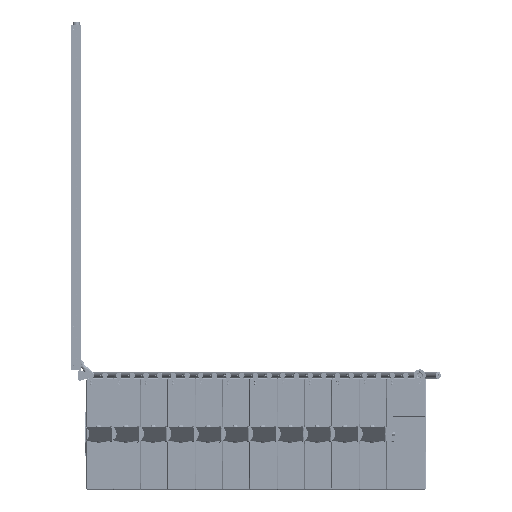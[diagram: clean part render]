
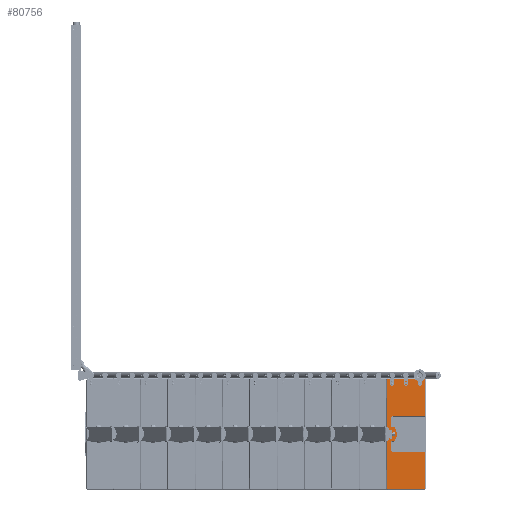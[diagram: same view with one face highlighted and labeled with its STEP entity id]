
A CAD part, front view. The second image highlights one B-rep face of the part: STEP entity #80756.
In plain terms, the highlighted planar face has unit normal (0, -1, 0).
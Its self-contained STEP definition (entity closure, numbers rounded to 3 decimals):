
#2755 = DIRECTION ( 'NONE',  ( 0., 0., 1. ) ) ;
#3198 = VERTEX_POINT ( 'NONE', #14355 ) ;
#4065 = DIRECTION ( 'NONE',  ( 0., 0., 1. ) ) ;
#7040 = EDGE_CURVE ( 'NONE', #31599, #58620, #12797, .T. ) ;
#7775 = ORIENTED_EDGE ( 'NONE', *, *, #19930, .T. ) ;
#8309 = DIRECTION ( 'NONE',  ( 0., 0., 1. ) ) ;
#8424 = VERTEX_POINT ( 'NONE', #12898 ) ;
#9810 = EDGE_CURVE ( 'NONE', #15998, #81479, #42740, .T. ) ;
#10199 = LINE ( 'NONE', #54179, #64265 ) ;
#10281 = CARTESIAN_POINT ( 'NONE',  ( 142.3, -19., 0. ) ) ;
#11124 = DIRECTION ( 'NONE',  ( 0., 0., 1. ) ) ;
#11174 = ORIENTED_EDGE ( 'NONE', *, *, #7040, .T. ) ;
#11290 = EDGE_CURVE ( 'NONE', #44735, #29235, #10199, .T. ) ;
#12797 = CIRCLE ( 'NONE', #35372, 5. ) ;
#12898 = CARTESIAN_POINT ( 'NONE',  ( -105.5, -19., 320. ) ) ;
#13167 = LINE ( 'NONE', #29535, #54185 ) ;
#13188 = DIRECTION ( 'NONE',  ( 0., 1., 0. ) ) ;
#13706 = CARTESIAN_POINT ( 'NONE',  ( -105.5, -19., 320. ) ) ;
#14355 = CARTESIAN_POINT ( 'NONE',  ( 105.5, -19., 320. ) ) ;
#15724 = DIRECTION ( 'NONE',  ( 0., 1., 0. ) ) ;
#15998 = VERTEX_POINT ( 'NONE', #21628 ) ;
#17138 = CARTESIAN_POINT ( 'NONE',  ( 110.5, -19., 38.584 ) ) ;
#19425 = PLANE ( 'NONE',  #52622 ) ;
#19930 = EDGE_CURVE ( 'NONE', #29235, #28941, #30913, .T. ) ;
#20183 = VECTOR ( 'NONE', #35052, 1000. ) ;
#21595 = DIRECTION ( 'NONE',  ( 0., -1., 0. ) ) ;
#21628 = CARTESIAN_POINT ( 'NONE',  ( 110.5, -19., -38.584 ) ) ;
#22264 = DIRECTION ( 'NONE',  ( 0., -1., 0. ) ) ;
#22666 = CARTESIAN_POINT ( 'NONE',  ( 110.5, -19., 315. ) ) ;
#23295 = DIRECTION ( 'NONE',  ( 1., 0., 0. ) ) ;
#23413 = AXIS2_PLACEMENT_3D ( 'NONE', #59608, #47579, #2755 ) ;
#23727 = ORIENTED_EDGE ( 'NONE', *, *, #31361, .T. ) ;
#24134 = EDGE_CURVE ( 'NONE', #58620, #15998, #79163, .T. ) ;
#24795 = CIRCLE ( 'NONE', #79071, 5. ) ;
#24937 = LINE ( 'NONE', #13706, #67066 ) ;
#25542 = EDGE_CURVE ( 'NONE', #28941, #31599, #13167, .T. ) ;
#27312 = VERTEX_POINT ( 'NONE', #22666 ) ;
#28941 = VERTEX_POINT ( 'NONE', #43488 ) ;
#29235 = VERTEX_POINT ( 'NONE', #66136 ) ;
#29535 = CARTESIAN_POINT ( 'NONE',  ( -105.5, -19., -320. ) ) ;
#30913 = CIRCLE ( 'NONE', #41493, 5. ) ;
#31361 = EDGE_CURVE ( 'NONE', #27312, #3198, #77668, .T. ) ;
#31599 = VERTEX_POINT ( 'NONE', #61254 ) ;
#32323 = FACE_OUTER_BOUND ( 'NONE', #47441, .T. ) ;
#35052 = DIRECTION ( 'NONE',  ( 0., 0., 1. ) ) ;
#35372 = AXIS2_PLACEMENT_3D ( 'NONE', #41740, #22264, #54170 ) ;
#35558 = DIRECTION ( 'NONE',  ( 0., 0., -1. ) ) ;
#41493 = AXIS2_PLACEMENT_3D ( 'NONE', #41613, #67286, #48236 ) ;
#41613 = CARTESIAN_POINT ( 'NONE',  ( -105.5, -19., -315. ) ) ;
#41740 = CARTESIAN_POINT ( 'NONE',  ( 105.5, -19., -315. ) ) ;
#42740 = CIRCLE ( 'NONE', #63952, 50. ) ;
#43488 = CARTESIAN_POINT ( 'NONE',  ( -105.5, -19., -320. ) ) ;
#44735 = VERTEX_POINT ( 'NONE', #81453 ) ;
#44745 = CARTESIAN_POINT ( 'NONE',  ( -105.5, -19., 315. ) ) ;
#45259 = DIRECTION ( 'NONE',  ( -1., 0., 0. ) ) ;
#47441 = EDGE_LOOP ( 'NONE', ( #67295, #75224, #58844, #23727, #58735, #73812, #50669, #7775, #68090, #11174 ) ) ;
#47579 = DIRECTION ( 'NONE',  ( 0., -1., 0. ) ) ;
#48236 = DIRECTION ( 'NONE',  ( 0., 0., 1. ) ) ;
#50669 = ORIENTED_EDGE ( 'NONE', *, *, #11290, .T. ) ;
#51485 = EDGE_CURVE ( 'NONE', #3198, #8424, #24937, .T. ) ;
#52622 = AXIS2_PLACEMENT_3D ( 'NONE', #44745, #13188, #63833 ) ;
#54170 = DIRECTION ( 'NONE',  ( 0., 0., 1. ) ) ;
#54179 = CARTESIAN_POINT ( 'NONE',  ( -110.5, -19., 315. ) ) ;
#54185 = VECTOR ( 'NONE', #23295, 1000. ) ;
#55684 = EDGE_CURVE ( 'NONE', #81479, #27312, #78941, .T. ) ;
#57976 = VECTOR ( 'NONE', #11124, 1000. ) ;
#58620 = VERTEX_POINT ( 'NONE', #64371 ) ;
#58735 = ORIENTED_EDGE ( 'NONE', *, *, #51485, .T. ) ;
#58844 = ORIENTED_EDGE ( 'NONE', *, *, #55684, .T. ) ;
#58928 = CARTESIAN_POINT ( 'NONE',  ( -105.5, -19., 315. ) ) ;
#59608 = CARTESIAN_POINT ( 'NONE',  ( 105.5, -19., 315. ) ) ;
#61254 = CARTESIAN_POINT ( 'NONE',  ( 105.5, -19., -320. ) ) ;
#63833 = DIRECTION ( 'NONE',  ( 0., 0., 1. ) ) ;
#63952 = AXIS2_PLACEMENT_3D ( 'NONE', #10281, #15724, #4065 ) ;
#64265 = VECTOR ( 'NONE', #35558, 1000. ) ;
#64371 = CARTESIAN_POINT ( 'NONE',  ( 110.5, -19., -315. ) ) ;
#66130 = CARTESIAN_POINT ( 'NONE',  ( 110.5, -19., 315. ) ) ;
#66136 = CARTESIAN_POINT ( 'NONE',  ( -110.5, -19., -315. ) ) ;
#67066 = VECTOR ( 'NONE', #45259, 1000. ) ;
#67286 = DIRECTION ( 'NONE',  ( 0., -1., 0. ) ) ;
#67295 = ORIENTED_EDGE ( 'NONE', *, *, #24134, .T. ) ;
#68090 = ORIENTED_EDGE ( 'NONE', *, *, #25542, .T. ) ;
#73349 = CARTESIAN_POINT ( 'NONE',  ( 110.5, -19., 315. ) ) ;
#73812 = ORIENTED_EDGE ( 'NONE', *, *, #80300, .T. ) ;
#75224 = ORIENTED_EDGE ( 'NONE', *, *, #9810, .T. ) ;
#77668 = CIRCLE ( 'NONE', #23413, 5. ) ;
#78941 = LINE ( 'NONE', #66130, #20183 ) ;
#79071 = AXIS2_PLACEMENT_3D ( 'NONE', #58928, #21595, #8309 ) ;
#79163 = LINE ( 'NONE', #73349, #57976 ) ;
#80300 = EDGE_CURVE ( 'NONE', #8424, #44735, #24795, .T. ) ;
#80756 = ADVANCED_FACE ( 'NONE', ( #32323 ), #19425, .F. ) ;
#81453 = CARTESIAN_POINT ( 'NONE',  ( -110.5, -19., 315. ) ) ;
#81479 = VERTEX_POINT ( 'NONE', #17138 ) ;
